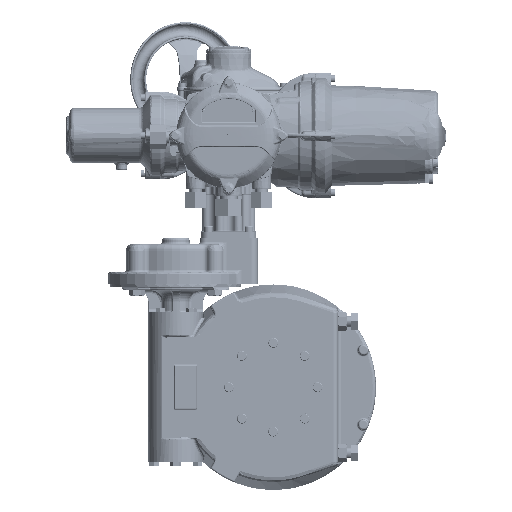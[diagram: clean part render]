
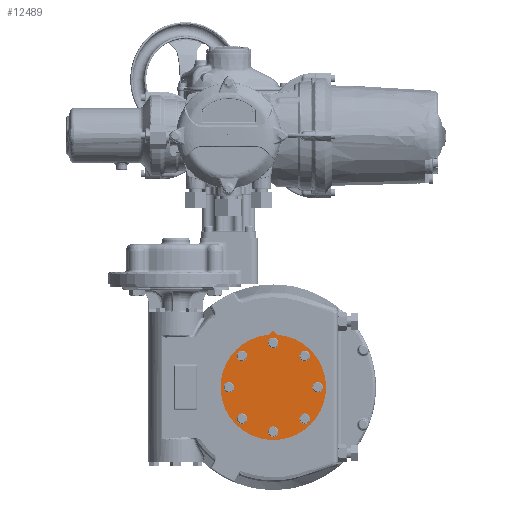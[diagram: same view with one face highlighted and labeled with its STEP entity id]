
A CAD part, front view. The second image highlights one B-rep face of the part: STEP entity #12489.
In plain terms, the highlighted planar face has unit normal (0, -1, 0).
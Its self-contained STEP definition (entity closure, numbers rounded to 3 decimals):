
#12489 = ADVANCED_FACE( '', ( #31399, #31400, #31401, #31402, #31403, #31404, #31405, #31406, #31407 ), #31408, .T. );
#31399 = FACE_BOUND( '', #118845, .T. );
#31400 = FACE_BOUND( '', #118846, .T. );
#31401 = FACE_BOUND( '', #118847, .T. );
#31402 = FACE_BOUND( '', #118848, .T. );
#31403 = FACE_BOUND( '', #118849, .T. );
#31404 = FACE_BOUND( '', #118850, .T. );
#31405 = FACE_BOUND( '', #118851, .T. );
#31406 = FACE_BOUND( '', #118852, .T. );
#31407 = FACE_OUTER_BOUND( '', #118853, .T. );
#31408 = PLANE( '', #118854 );
#118845 = EDGE_LOOP( '', ( #402767 ) );
#118846 = EDGE_LOOP( '', ( #402768 ) );
#118847 = EDGE_LOOP( '', ( #402769 ) );
#118848 = EDGE_LOOP( '', ( #402770 ) );
#118849 = EDGE_LOOP( '', ( #402771 ) );
#118850 = EDGE_LOOP( '', ( #402772 ) );
#118851 = EDGE_LOOP( '', ( #402773 ) );
#118852 = EDGE_LOOP( '', ( #402774 ) );
#118853 = EDGE_LOOP( '', ( #402775, #402776, #402777 ) );
#118854 = AXIS2_PLACEMENT_3D( '', #402778, #402779, #402780 );
#402767 = ORIENTED_EDGE( '', *, *, #466215, .F. );
#402768 = ORIENTED_EDGE( '', *, *, #461443, .F. );
#402769 = ORIENTED_EDGE( '', *, *, #466216, .F. );
#402770 = ORIENTED_EDGE( '', *, *, #466217, .F. );
#402771 = ORIENTED_EDGE( '', *, *, #465929, .F. );
#402772 = ORIENTED_EDGE( '', *, *, #466218, .F. );
#402773 = ORIENTED_EDGE( '', *, *, #466219, .F. );
#402774 = ORIENTED_EDGE( '', *, *, #466220, .F. );
#402775 = ORIENTED_EDGE( '', *, *, #466221, .T. );
#402776 = ORIENTED_EDGE( '', *, *, #466222, .T. );
#402777 = ORIENTED_EDGE( '', *, *, #463217, .T. );
#402778 = CARTESIAN_POINT( '', ( 81.38, -53.95, -459.14 ) );
#402779 = DIRECTION( '', ( 0., -1., 0. ) );
#402780 = DIRECTION( '', ( 0., 0., 1. ) );
#461443 = EDGE_CURVE( '', #494004, #494004, #494005, .T. );
#463217 = EDGE_CURVE( '', #496943, #496941, #496944, .T. );
#465929 = EDGE_CURVE( '', #501239, #501239, #501240, .T. );
#466215 = EDGE_CURVE( '', #501678, #501678, #501679, .T. );
#466216 = EDGE_CURVE( '', #501680, #501680, #501681, .T. );
#466217 = EDGE_CURVE( '', #501682, #501682, #501683, .T. );
#466218 = EDGE_CURVE( '', #501684, #501684, #501685, .T. );
#466219 = EDGE_CURVE( '', #501686, #501686, #501687, .T. );
#466220 = EDGE_CURVE( '', #501688, #501688, #501689, .T. );
#466221 = EDGE_CURVE( '', #496941, #501690, #501691, .T. );
#466222 = EDGE_CURVE( '', #501690, #496943, #501692, .T. );
#494004 = VERTEX_POINT( '', #568120 );
#494005 = CIRCLE( '', #568121, 9.5 );
#496941 = VERTEX_POINT( '', #579400 );
#496943 = VERTEX_POINT( '', #579403 );
#496944 = LINE( '', #579404, #579405 );
#501239 = VERTEX_POINT( '', #600331 );
#501240 = CIRCLE( '', #600332, 9.5 );
#501678 = VERTEX_POINT( '', #602434 );
#501679 = CIRCLE( '', #602435, 9.5 );
#501680 = VERTEX_POINT( '', #602436 );
#501681 = CIRCLE( '', #602437, 9.5 );
#501682 = VERTEX_POINT( '', #602438 );
#501683 = CIRCLE( '', #602439, 9.5 );
#501684 = VERTEX_POINT( '', #602440 );
#501685 = CIRCLE( '', #602441, 9.5 );
#501686 = VERTEX_POINT( '', #602442 );
#501687 = CIRCLE( '', #602443, 9.5 );
#501688 = VERTEX_POINT( '', #602444 );
#501689 = CIRCLE( '', #602445, 9.5 );
#501690 = VERTEX_POINT( '', #602446 );
#501691 = CIRCLE( '', #602447, 96.25 );
#501692 = LINE( '', #602448, #602449 );
#568120 = CARTESIAN_POINT( '', ( 148.156, -53.95, -401.864 ) );
#568121 = AXIS2_PLACEMENT_3D( '', #721249, #721250, #721251 );
#579400 = CARTESIAN_POINT( '', ( 73.562, -53.95, -363.208 ) );
#579403 = CARTESIAN_POINT( '', ( 81.38, -53.95, -355.39 ) );
#579404 = CARTESIAN_POINT( '', ( 81.38, -53.95, -355.39 ) );
#579405 = VECTOR( '', #722935, 1000. );
#600331 = CARTESIAN_POINT( '', ( 90.88, -53.95, -540.14 ) );
#600332 = AXIS2_PLACEMENT_3D( '', #725777, #725778, #725779 );
#602434 = CARTESIAN_POINT( '', ( 33.604, -53.95, -401.864 ) );
#602435 = AXIS2_PLACEMENT_3D( '', #726068, #726069, #726070 );
#602436 = CARTESIAN_POINT( '', ( 148.156, -53.95, -516.416 ) );
#602437 = AXIS2_PLACEMENT_3D( '', #726071, #726072, #726073 );
#602438 = CARTESIAN_POINT( '', ( 33.604, -53.95, -516.416 ) );
#602439 = AXIS2_PLACEMENT_3D( '', #726074, #726075, #726076 );
#602440 = CARTESIAN_POINT( '', ( 171.88, -53.95, -459.14 ) );
#602441 = AXIS2_PLACEMENT_3D( '', #726077, #726078, #726079 );
#602442 = CARTESIAN_POINT( '', ( 90.88, -53.95, -378.14 ) );
#602443 = AXIS2_PLACEMENT_3D( '', #726080, #726081, #726082 );
#602444 = CARTESIAN_POINT( '', ( 9.88, -53.95, -459.14 ) );
#602445 = AXIS2_PLACEMENT_3D( '', #726083, #726084, #726085 );
#602446 = CARTESIAN_POINT( '', ( 89.198, -53.95, -363.208 ) );
#602447 = AXIS2_PLACEMENT_3D( '', #726086, #726087, #726088 );
#602448 = CARTESIAN_POINT( '', ( 89.198, -53.95, -363.208 ) );
#602449 = VECTOR( '', #726089, 1000. );
#721249 = CARTESIAN_POINT( '', ( 138.656, -53.95, -401.864 ) );
#721250 = DIRECTION( '', ( 0., -1., 0. ) );
#721251 = DIRECTION( '', ( 1., 0., 0. ) );
#722935 = DIRECTION( '', ( -0.707, 0., -0.707 ) );
#725777 = CARTESIAN_POINT( '', ( 81.38, -53.95, -540.14 ) );
#725778 = DIRECTION( '', ( 0., -1., 0. ) );
#725779 = DIRECTION( '', ( 1., 0., 0. ) );
#726068 = CARTESIAN_POINT( '', ( 24.104, -53.95, -401.864 ) );
#726069 = DIRECTION( '', ( 0., -1., 0. ) );
#726070 = DIRECTION( '', ( 1., 0., 0. ) );
#726071 = CARTESIAN_POINT( '', ( 138.656, -53.95, -516.416 ) );
#726072 = DIRECTION( '', ( 0., -1., 0. ) );
#726073 = DIRECTION( '', ( 1., 0., 0. ) );
#726074 = CARTESIAN_POINT( '', ( 24.104, -53.95, -516.416 ) );
#726075 = DIRECTION( '', ( 0., -1., 0. ) );
#726076 = DIRECTION( '', ( 1., 0., 0. ) );
#726077 = CARTESIAN_POINT( '', ( 162.38, -53.95, -459.14 ) );
#726078 = DIRECTION( '', ( 0., -1., 0. ) );
#726079 = DIRECTION( '', ( 1., 0., 0. ) );
#726080 = CARTESIAN_POINT( '', ( 81.38, -53.95, -378.14 ) );
#726081 = DIRECTION( '', ( 0., -1., 0. ) );
#726082 = DIRECTION( '', ( 1., 0., 0. ) );
#726083 = CARTESIAN_POINT( '', ( 0.38, -53.95, -459.14 ) );
#726084 = DIRECTION( '', ( 0., -1., 0. ) );
#726085 = DIRECTION( '', ( 1., 0., 0. ) );
#726086 = CARTESIAN_POINT( '', ( 81.38, -53.95, -459.14 ) );
#726087 = DIRECTION( '', ( 0., -1., 0. ) );
#726088 = DIRECTION( '', ( 0., 0., 1. ) );
#726089 = DIRECTION( '', ( -0.707, 0., 0.707 ) );
